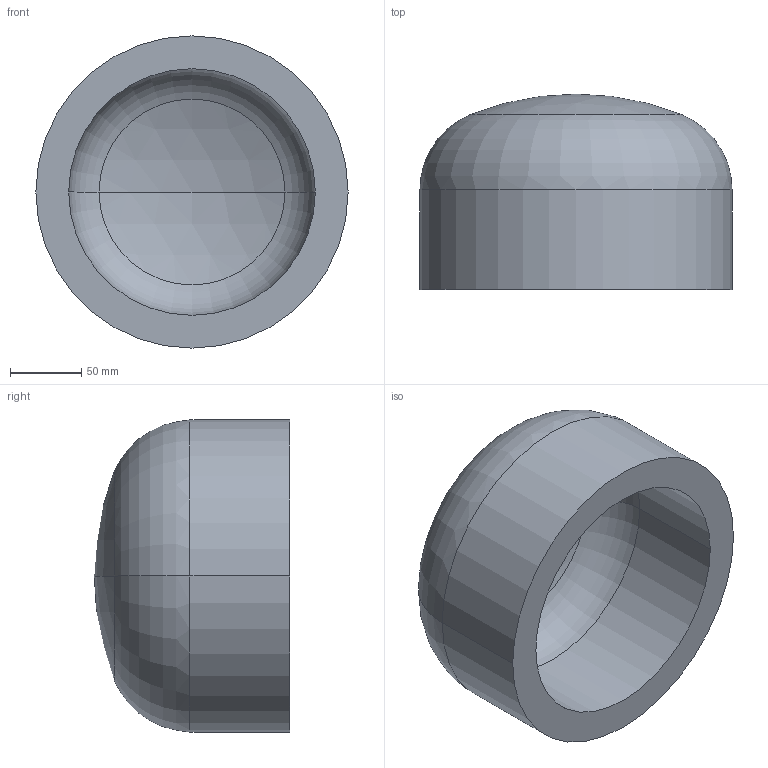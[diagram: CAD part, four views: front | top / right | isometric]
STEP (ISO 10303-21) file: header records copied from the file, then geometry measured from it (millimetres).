
FILE_DESCRIPTION (( 'STEP AP203' ), '1' );
FILE_NAME ('DIN 28013 Korbbogenform_-_Boden DIN 28013 - 219,1 x 70 - I - s=23.step', '2016-07-01T07:42:43', ( '' ), ( '' ), 'SwSTEP 2.0', 'SolidWorks 2013', '' );
FILE_SCHEMA (( 'CONFIG_CONTROL_DESIGN' ));
Length unit declared in the file: millimetre
Products named in the file (1): DIN 28013 Korbbogenform_-_Boden DIN 28013 - 219,1 x 70 - I - s=23
Bounding box: 219.1 x 137.16 x 219.1 mm (x, y, z)
Volume: 2048801.7 mm3; surface area: 193434.1 mm2
Topology: 1 solids, 1 shells, 13 faces, 24 edges, 14 vertices
Faces by surface type: torus 4, cylinder 4, sphere 4, plane 1
Entity records: 407 total; most frequent: DIRECTION 72, CARTESIAN_POINT 52, ORIENTED_EDGE 48, AXIS2_PLACEMENT_3D 34, EDGE_CURVE 24, CIRCLE 20, VERTEX_POINT 14, EDGE_LOOP 14
